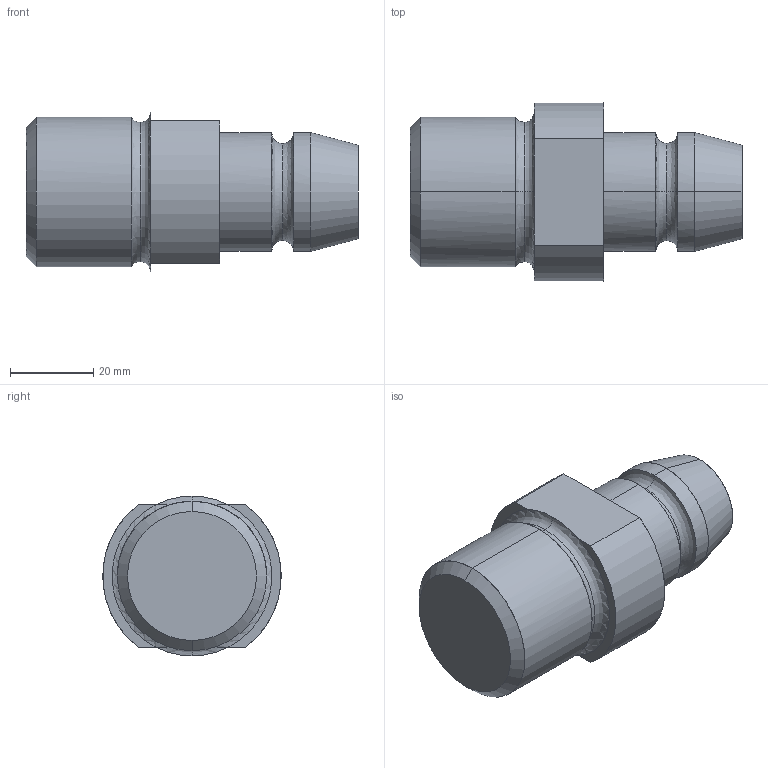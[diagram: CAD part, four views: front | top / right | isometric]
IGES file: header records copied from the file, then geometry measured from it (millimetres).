
Start section: START RECORD GO HERE.
Global section: file name: AGS3421M36.igs; native system: DASSAULT SYSTEMES CATIA V5 R20 - www.3ds.com; preprocessor: CATIA Version 5 Release 20 ; author: Utente; organization: NB04-ASUS; date: 20210221.204151; units: millimetre
Bounding box: 80 x 42.99 x 38.5 mm (x, y, z)
Surface area: 11020.1 mm2 (no closed solid volume)
Topology: 0 solids, 0 shells, 29 faces, 152 edges, 152 vertices
Faces by surface type: revolution 20, plane 9
